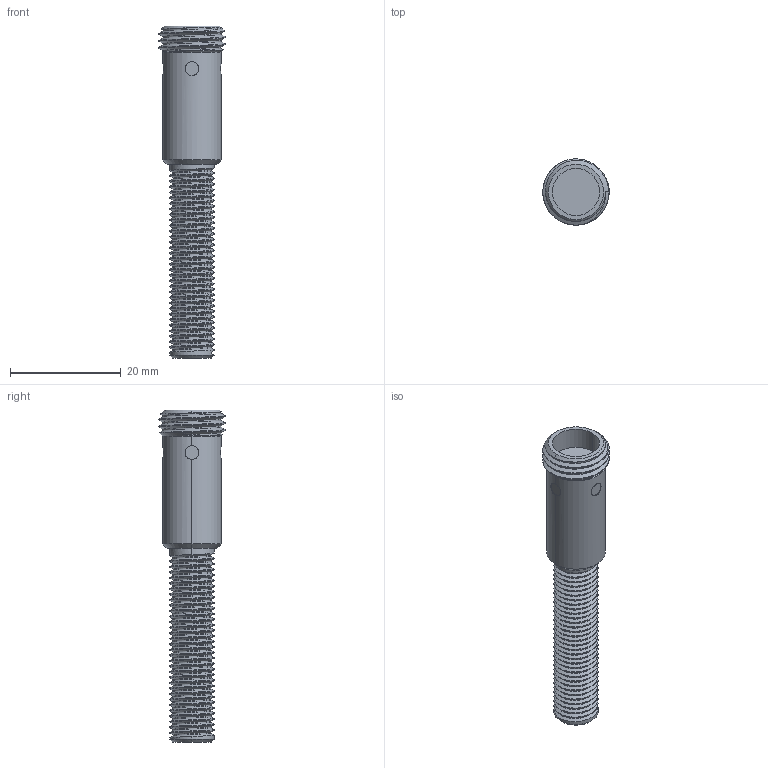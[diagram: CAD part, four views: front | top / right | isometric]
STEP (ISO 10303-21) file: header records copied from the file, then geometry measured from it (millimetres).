
FILE_DESCRIPTION (( 'STEP AP214' ), '1' );
FILE_NAME ('BIN3P22.STEP', '2025-08-21T05:43:57', ( '' ), ( '' ), 'SwSTEP 2.0', 'SolidWorks 2022', '' );
FILE_SCHEMA (( 'AUTOMOTIVE_DESIGN' ));
Length unit declared in the file: millimetre
Products named in the file (1): BIN3P22
Bounding box: 12 x 11.99 x 60 mm (x, y, z)
Volume: 3527.5 mm3; surface area: 2490.9 mm2
Topology: 1 solids, 1 shells, 117 faces, 314 edges, 203 vertices
Faces by surface type: cylinder 86, plane 16, cone 9, bspline 6
Entity records: 9307 total; most frequent: CARTESIAN_POINT 6850, ORIENTED_EDGE 628, DIRECTION 391, EDGE_CURVE 314, VERTEX_POINT 203, AXIS2_PLACEMENT_3D 140, EDGE_LOOP 121, ADVANCED_FACE 117
